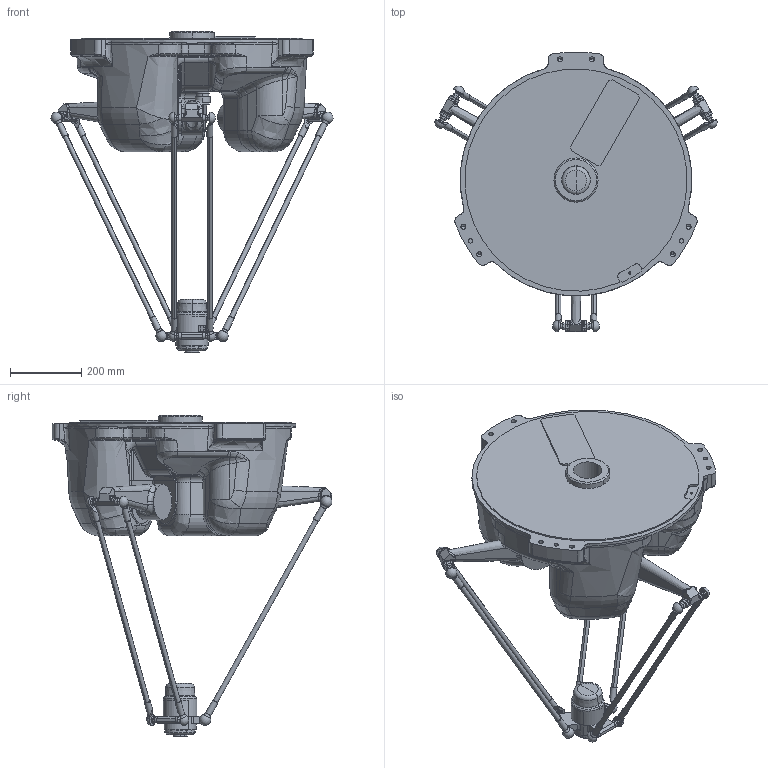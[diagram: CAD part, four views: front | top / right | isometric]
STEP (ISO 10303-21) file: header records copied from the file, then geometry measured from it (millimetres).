
FILE_DESCRIPTION(/* description */ (''),/* implementation_level */ '2;1');
FILE_NAME(/* name */ 'MPP3s.stp',/* time_stamp */ '2014-02-03T08:53:17+01:00',/* author */ (''),/* organization */ (''),/* preprocessor_version */ 'ST-DEVELOPER v14',/* originating_system */ 'SIEMENS PLM Software NX 8.0',/* authorisation */ '');
FILE_SCHEMA (('AUTOMOTIVE_DESIGN { 1 0 10303 214 3 1 1 1 }'));
Products named in the file (13): MPP3S_UARM3_AXIS; MPP3S_UARM2_AXIS; MPP3S_UARM1_AXIS; MPP3S_TFRANGE_AXIS; MPP3S_TBASE_AXIS; MPP3S_LARM6_AXIS; MPP3S_LARM5_AXIS; MPP3S_LARM4_AXIS; MPP3S_LARM3_AXIS; MPP3S_LARM2_AXIS; MPP3S_LARM1_AXIS; MPP3S_BASE_AXIS; MPP3s
Assembly tree (12 placements, depth 2):
  MPP3s
    MPP3S_BASE_AXIS
    MPP3S_LARM1_AXIS
    MPP3S_LARM2_AXIS
    MPP3S_LARM3_AXIS
    MPP3S_LARM4_AXIS
    MPP3S_LARM5_AXIS
    MPP3S_LARM6_AXIS
    MPP3S_TBASE_AXIS
    MPP3S_TFRANGE_AXIS
    MPP3S_UARM1_AXIS
    MPP3S_UARM2_AXIS
    MPP3S_UARM3_AXIS
Bounding box: 792.11 x 785.3 x 901.88 mm (x, y, z)
Volume: 62742661.1 mm3; surface area: 1875501.5 mm2
Topology: 12 solids, 14 shells, 1502 faces, 3747 edges, 2246 vertices
Faces by surface type: cylinder 415, plane 387, bspline 369, torus 158, cone 105, sphere 68
Full cylindrical faces by diameter (mm): 17 x12
Entity records: 75538 total; most frequent: CARTESIAN_POINT 42034, ORIENTED_EDGE 7370, DIRECTION 6578, EDGE_CURVE 3685, AXIS2_PLACEMENT_3D 2721, VERTEX_POINT 2290, EDGE_LOOP 1587, CIRCLE 1527
